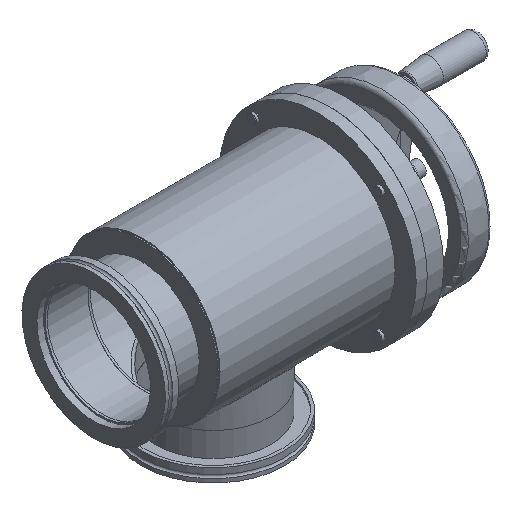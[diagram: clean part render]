
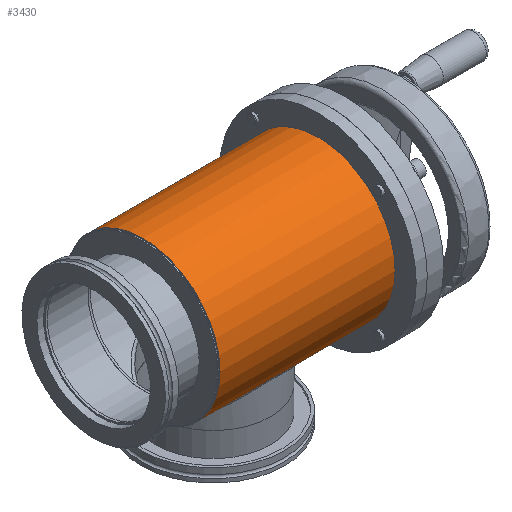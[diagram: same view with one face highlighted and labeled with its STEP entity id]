
A CAD part, isometric view. The second image highlights one B-rep face of the part: STEP entity #3430.
In plain terms, the highlighted cylindrical face has radius 69.85 mm (diameter 139.7 mm), a full revolution.
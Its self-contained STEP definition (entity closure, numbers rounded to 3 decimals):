
#2993=B_SPLINE_CURVE_WITH_KNOTS('',3,(#8105,#8106,#8107,#8108,#8109,#8110,
#8111,#8112,#8113,#8114,#8115,#8116,#8117,#8118,#8119,#8120,#8121,#8122,
#8123,#8124,#8125,#8126,#8127,#8128,#8129,#8130,#8131,#8132,#8133,#8134,
#8135,#8136,#8137,#8138,#8139,#8140,#8141,#8142,#8143,#8144,#8145,#8146,
#8147,#8148,#8149,#8150,#8151,#8152,#8153,#8154,#8155,#8156,#8157,#8158,
#8159,#8160,#8161,#8162),.UNSPECIFIED.,.T.,.F.,(2,2,2,2,2,2,2,2,2,2,2,2,
2,2,2,2,2,2,2,2,2,2,2,2,2,2,2,2,2,2,2),(-0.031,0.,0.062,
0.125,0.156,0.188,0.219,0.25,0.281,0.313,0.375,0.406,0.438,0.469,
0.5,0.531,0.563,0.594,0.625,0.656,0.688,0.719,0.75,0.813,0.844,
0.875,0.906,0.938,0.969,1.,1.063),.UNSPECIFIED.);
#3430=ADVANCED_FACE('',(#3810,#3811,#3812),#3540,.T.);
#3540=CYLINDRICAL_SURFACE('',#6088,69.85);
#3810=FACE_BOUND('',#4191,.T.);
#3811=FACE_BOUND('',#4192,.T.);
#3812=FACE_BOUND('',#4193,.T.);
#4191=EDGE_LOOP('',(#4809));
#4192=EDGE_LOOP('',(#4810));
#4193=EDGE_LOOP('',(#4811));
#4809=ORIENTED_EDGE('',*,*,#5497,.T.);
#4810=ORIENTED_EDGE('',*,*,#5498,.T.);
#4811=ORIENTED_EDGE('',*,*,#5495,.F.);
#5169=VERTEX_POINT('',#8101);
#5171=VERTEX_POINT('',#8163);
#5172=VERTEX_POINT('',#8165);
#5495=EDGE_CURVE('',#5169,#5169,#5717,.T.);
#5497=EDGE_CURVE('',#5171,#5171,#2993,.T.);
#5498=EDGE_CURVE('',#5172,#5172,#5719,.T.);
#5717=CIRCLE('',#6084,69.85);
#5719=CIRCLE('',#6087,69.85);
#6084=AXIS2_PLACEMENT_3D('',#8100,#6915,#6916);
#6087=AXIS2_PLACEMENT_3D('',#8164,#6921,#6922);
#6088=AXIS2_PLACEMENT_3D('',#8166,#6923,#6924);
#6915=DIRECTION('',(-1.,0.,0.));
#6916=DIRECTION('',(0.,0.,1.));
#6921=DIRECTION('',(-1.,0.,0.));
#6922=DIRECTION('',(0.,0.,1.));
#6923=DIRECTION('',(-1.,0.,0.));
#6924=DIRECTION('',(0.,0.,1.));
#8100=CARTESIAN_POINT('',(0.,0.,0.));
#8101=CARTESIAN_POINT('',(0.,0.,69.85));
#8105=CARTESIAN_POINT('',(93.308,-46.077,52.497));
#8106=CARTESIAN_POINT('',(104.385,-46.077,52.497));
#8107=CARTESIAN_POINT('',(111.564,-47.874,50.99));
#8108=CARTESIAN_POINT('',(124.216,-52.835,45.829));
#8109=CARTESIAN_POINT('',(129.889,-55.963,42.153));
#8110=CARTESIAN_POINT('',(137.147,-60.357,35.262));
#8111=CARTESIAN_POINT('',(139.39,-61.801,32.695));
#8112=CARTESIAN_POINT('',(143.335,-64.422,27.169));
#8113=CARTESIAN_POINT('',(145.055,-65.61,24.201));
#8114=CARTESIAN_POINT('',(147.938,-67.634,17.776));
#8115=CARTESIAN_POINT('',(149.07,-68.449,14.367));
#8116=CARTESIAN_POINT('',(150.597,-69.554,7.342));
#8117=CARTESIAN_POINT('',(150.999,-69.849,3.645));
#8118=CARTESIAN_POINT('',(151.001,-69.851,-3.624));
#8119=CARTESIAN_POINT('',(150.611,-69.565,-7.26));
#8120=CARTESIAN_POINT('',(149.075,-68.452,-14.359));
#8121=CARTESIAN_POINT('',(147.955,-67.646,-17.729));
#8122=CARTESIAN_POINT('',(143.641,-64.617,-27.37));
#8123=CARTESIAN_POINT('',(139.564,-61.82,-32.971));
#8124=CARTESIAN_POINT('',(132.288,-57.416,-39.873));
#8125=CARTESIAN_POINT('',(129.68,-55.92,-41.921));
#8126=CARTESIAN_POINT('',(124.055,-53.005,-45.551));
#8127=CARTESIAN_POINT('',(121.028,-51.583,-47.132));
#8128=CARTESIAN_POINT('',(114.688,-49.1,-49.713));
#8129=CARTESIAN_POINT('',(111.32,-48.018,-50.738));
#8130=CARTESIAN_POINT('',(104.274,-46.497,-52.136));
#8131=CARTESIAN_POINT('',(100.619,-46.074,-52.5));
#8132=CARTESIAN_POINT('',(93.287,-46.081,-52.494));
#8133=CARTESIAN_POINT('',(89.707,-46.501,-52.132));
#8134=CARTESIAN_POINT('',(82.694,-48.015,-50.74));
#8135=CARTESIAN_POINT('',(79.311,-49.1,-49.713));
#8136=CARTESIAN_POINT('',(72.96,-51.588,-47.127));
#8137=CARTESIAN_POINT('',(69.932,-53.012,-45.543));
#8138=CARTESIAN_POINT('',(64.327,-55.917,-41.925));
#8139=CARTESIAN_POINT('',(61.727,-57.408,-39.885));
#8140=CARTESIAN_POINT('',(56.891,-60.334,-35.302));
#8141=CARTESIAN_POINT('',(54.644,-61.779,-32.737));
#8142=CARTESIAN_POINT('',(50.692,-64.404,-27.212));
#8143=CARTESIAN_POINT('',(48.964,-65.597,-24.239));
#8144=CARTESIAN_POINT('',(46.065,-67.632,-17.786));
#8145=CARTESIAN_POINT('',(44.927,-68.451,-14.356));
#8146=CARTESIAN_POINT('',(43.403,-69.555,-7.336));
#8147=CARTESIAN_POINT('',(43.001,-69.849,-3.664));
#8148=CARTESIAN_POINT('',(42.998,-69.851,7.295));
#8149=CARTESIAN_POINT('',(44.616,-68.65,14.534));
#8150=CARTESIAN_POINT('',(48.911,-65.634,24.135));
#8151=CARTESIAN_POINT('',(50.664,-64.423,27.168));
#8152=CARTESIAN_POINT('',(54.614,-61.799,32.701));
#8153=CARTESIAN_POINT('',(56.837,-60.367,35.247));
#8154=CARTESIAN_POINT('',(61.704,-57.42,39.868));
#8155=CARTESIAN_POINT('',(64.313,-55.925,41.915));
#8156=CARTESIAN_POINT('',(69.914,-53.021,45.533));
#8157=CARTESIAN_POINT('',(72.937,-51.598,47.116));
#8158=CARTESIAN_POINT('',(79.293,-49.106,49.707));
#8159=CARTESIAN_POINT('',(82.621,-48.034,50.723));
#8160=CARTESIAN_POINT('',(89.685,-46.502,52.131));
#8161=CARTESIAN_POINT('',(93.308,-46.077,52.497));
#8162=CARTESIAN_POINT('',(104.385,-46.077,52.497));
#8163=CARTESIAN_POINT('',(97.,-46.077,52.497));
#8164=CARTESIAN_POINT('',(160.5,0.,0.));
#8165=CARTESIAN_POINT('',(160.5,0.,69.85));
#8166=CARTESIAN_POINT('',(0.,0.,0.));
